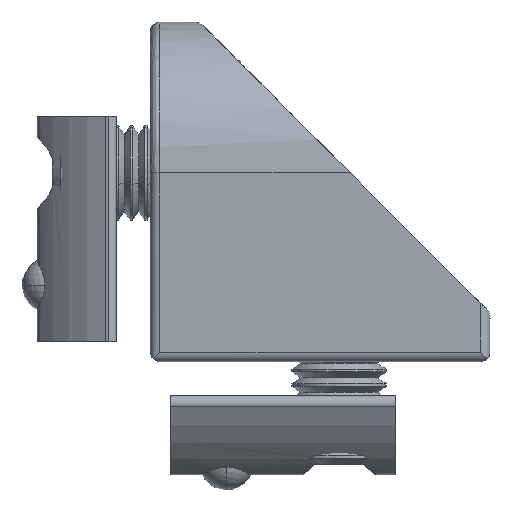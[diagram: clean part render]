
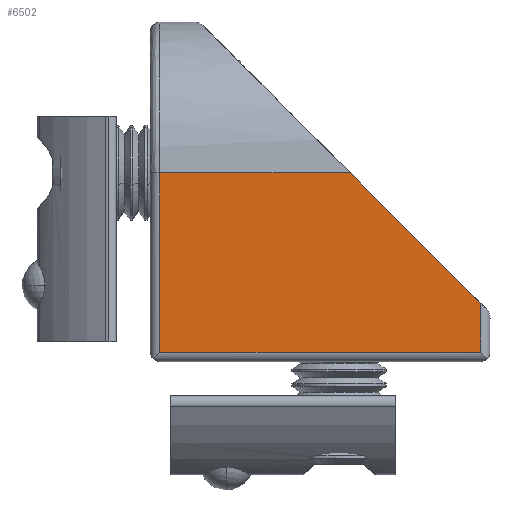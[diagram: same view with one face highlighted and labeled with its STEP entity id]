
A CAD part, front view. The second image highlights one B-rep face of the part: STEP entity #6502.
In plain terms, the highlighted planar face has unit normal (0, -1, 0).
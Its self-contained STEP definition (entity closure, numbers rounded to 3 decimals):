
#169 = DIRECTION ( 'NONE',  ( -0.707, 0., 0.707 ) ) ;
#535 = CARTESIAN_POINT ( 'NONE',  ( 20., -8., -9.5 ) ) ;
#536 = PLANE ( 'NONE',  #8139 ) ;
#572 = FACE_OUTER_BOUND ( 'NONE', #6235, .T. ) ;
#596 = VECTOR ( 'NONE', #728, 1000. ) ;
#728 = DIRECTION ( 'NONE',  ( 0., 0., 1. ) ) ;
#974 = ORIENTED_EDGE ( 'NONE', *, *, #1700, .T. ) ;
#1308 = LINE ( 'NONE', #5957, #5384 ) ;
#1700 = EDGE_CURVE ( 'NONE', #6500, #4637, #5344, .T. ) ;
#1759 = CARTESIAN_POINT ( 'NONE',  ( 2.5, -8., -9.5 ) ) ;
#1967 = CARTESIAN_POINT ( 'NONE',  ( 8.935, -8., 0. ) ) ;
#2084 = CARTESIAN_POINT ( 'NONE',  ( 2.5, -8., 0. ) ) ;
#2447 = VECTOR ( 'NONE', #8588, 1000. ) ;
#2491 = DIRECTION ( 'NONE',  ( 0., -1., 0. ) ) ;
#2733 = CARTESIAN_POINT ( 'NONE',  ( 19.5, -8., -3.065 ) ) ;
#2839 = ORIENTED_EDGE ( 'NONE', *, *, #6059, .T. ) ;
#2871 = VECTOR ( 'NONE', #3809, 1000. ) ;
#3147 = CARTESIAN_POINT ( 'NONE',  ( 19.5, -8., -9.5 ) ) ;
#3809 = DIRECTION ( 'NONE',  ( 0., 0., -1. ) ) ;
#3939 = CARTESIAN_POINT ( 'NONE',  ( 12.59, -8., 0. ) ) ;
#4637 = VERTEX_POINT ( 'NONE', #5132 ) ;
#5132 = CARTESIAN_POINT ( 'NONE',  ( 19.5, -8., -6.91 ) ) ;
#5148 = CARTESIAN_POINT ( 'NONE',  ( 8.935, -8., -3.065 ) ) ;
#5317 = LINE ( 'NONE', #1967, #7040 ) ;
#5344 = LINE ( 'NONE', #2733, #596 ) ;
#5384 = VECTOR ( 'NONE', #169, 1000. ) ;
#5393 = EDGE_CURVE ( 'NONE', #6500, #6387, #6503, .T. ) ;
#5814 = VERTEX_POINT ( 'NONE', #2084 ) ;
#5833 = EDGE_CURVE ( 'NONE', #4637, #6144, #1308, .T. ) ;
#5957 = CARTESIAN_POINT ( 'NONE',  ( 19.5, -8., -6.91 ) ) ;
#6002 = ORIENTED_EDGE ( 'NONE', *, *, #6498, .T. ) ;
#6059 = EDGE_CURVE ( 'NONE', #5814, #6387, #7618, .T. ) ;
#6144 = VERTEX_POINT ( 'NONE', #3939 ) ;
#6235 = EDGE_LOOP ( 'NONE', ( #6002, #2839, #7023, #974, #8527 ) ) ;
#6387 = VERTEX_POINT ( 'NONE', #1759 ) ;
#6498 = EDGE_CURVE ( 'NONE', #6144, #5814, #5317, .T. ) ;
#6500 = VERTEX_POINT ( 'NONE', #3147 ) ;
#6502 = ADVANCED_FACE ( 'NONE', ( #572 ), #536, .T. ) ;
#6503 = LINE ( 'NONE', #535, #2447 ) ;
#6635 = DIRECTION ( 'NONE',  ( -1., 0., 0. ) ) ;
#7023 = ORIENTED_EDGE ( 'NONE', *, *, #5393, .F. ) ;
#7040 = VECTOR ( 'NONE', #6635, 1000. ) ;
#7491 = CARTESIAN_POINT ( 'NONE',  ( 2.5, -8., -3.065 ) ) ;
#7618 = LINE ( 'NONE', #7491, #2871 ) ;
#7895 = DIRECTION ( 'NONE',  ( 0., 0., -1. ) ) ;
#8139 = AXIS2_PLACEMENT_3D ( 'NONE', #5148, #2491, #7895 ) ;
#8527 = ORIENTED_EDGE ( 'NONE', *, *, #5833, .T. ) ;
#8588 = DIRECTION ( 'NONE',  ( -1., 0., 0. ) ) ;
